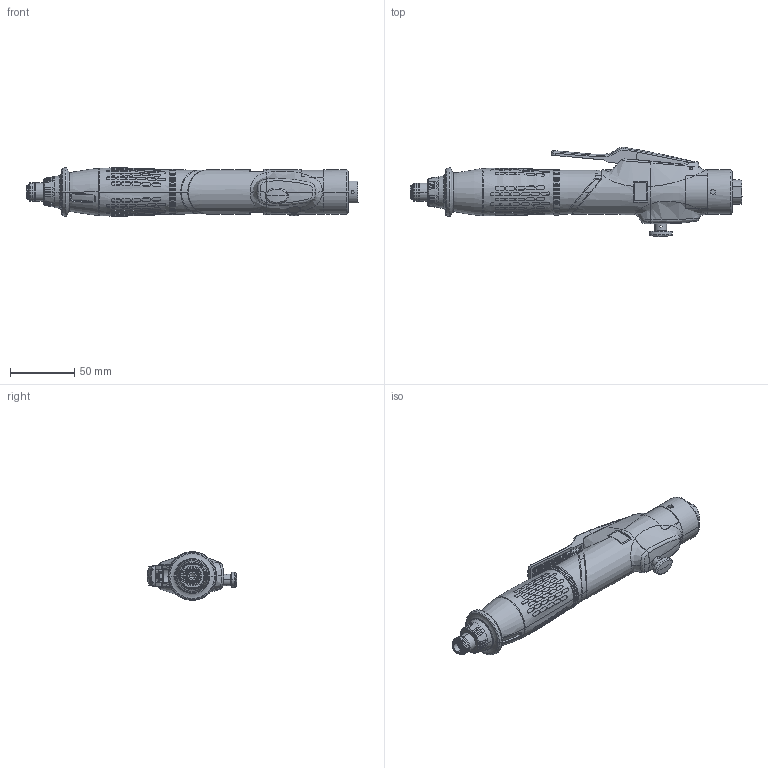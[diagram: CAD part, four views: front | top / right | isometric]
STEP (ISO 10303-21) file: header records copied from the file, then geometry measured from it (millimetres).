
FILE_DESCRIPTION((''),'2;1');
FILE_NAME('2050288510_ASM_ASM','2009-06-24T',('gamiaux'),(''),'PRO/ENGINEER BY PARAMETRIC TECHNOLOGY CORPORATION, 2008250','PRO/ENGINEER BY PARAMETRIC TECHNOLOGY CORPORATION, 2008250','');
FILE_SCHEMA(('AUTOMOTIVE_DESIGN_CC2 { 1 2 10303 214 -1 1 5 2 }'));
Length unit declared in the file: millimetre
Products named in the file (24): MSBR-22; MSBR-21; MSBR-20; MSBR-19; MSBR-18; MSBR-17; MSBR-16; MSBR-15; MSBR-14; MSBR-13; MSBR-12; MSBR-11; MSBR-10; MSBR-9; MSBR-8; MSBR-7; MSBR-6; MSBR-5; MSBR-4; MSBR-3; MSBR-2; MSBR-1; _2050288510_ASM; 2050288510_ASM_ASM
Assembly tree (23 placements, depth 2):
  2050288510_ASM_ASM
    MSBR-22
    MSBR-21
    MSBR-20
    MSBR-19
    MSBR-18
    MSBR-17
    MSBR-16
    MSBR-15
    MSBR-14
    MSBR-13
    MSBR-12
    MSBR-11
    MSBR-10
    MSBR-9
    MSBR-8
    MSBR-7
    MSBR-6
    MSBR-5
    MSBR-4
    MSBR-3
    MSBR-2
    MSBR-1
    _2050288510_ASM
Bounding box: 257.4 x 69.2 x 37.67 mm (x, y, z)
Volume: 120391.4 mm3; surface area: 109242.4 mm2
Topology: 22 solids, 31 shells, 3605 faces, 9651 edges, 6266 vertices
Faces by surface type: plane 1399, cylinder 1011, bspline 595, torus 278, cone 195, sphere 72, revolution 39, extrusion 16
Entity records: 207448 total; most frequent: CARTESIAN_POINT 82606, ORIENTED_EDGE 19220, DIRECTION 12897, PRESENTATION_STYLE_ASSIGNMENT 11413, EDGE_CURVE 9628, STYLED_ITEM 9220, CURVE_STYLE 8966, VERTEX_POINT 6266
